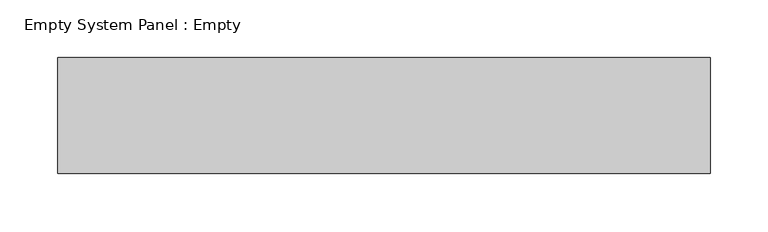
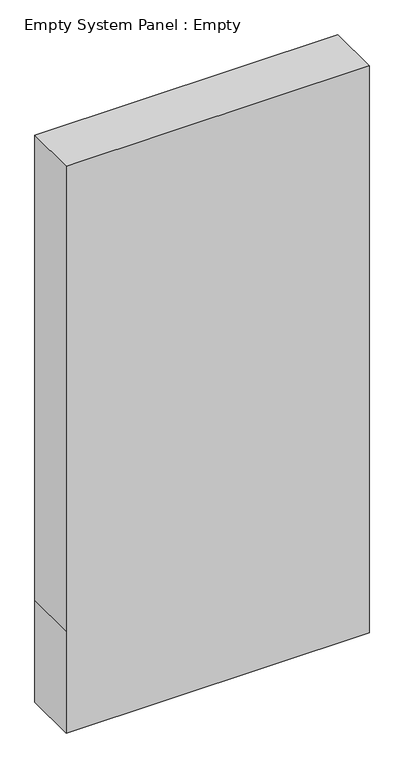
"""IFC4 building model written with IfcOpenShell, lengths in millimetres: plate geometry, Empty System Panel : Empty."""

from ifc_helpers import new_model, si_unit, frame, origin, place, context, project, spatial, polyline, outline, extrude, source, transform, mapped, element, save


def empty_system_panel_empty_65695ee9(model_context):
    return source(origin(), model_context, "Body", "SweptSolid", [
        extrude(outline(polyline([(0.0, -281.25), (0.0, 281.25), (200.0, 281.25), (1112.5, 281.25), (1112.5, -281.25), (200.0, -281.25), (0.0, -281.25)])), frame((0.0, -50.0, 0.0), z_axis=(0.0, 1.0, 0.0), x_axis=(0.0, 0.0, 1.0)), (0.0, 0.0, 1.0), 100.0),
    ])


if __name__ == "__main__":
    model = new_model("IFC4")
    model_context = context("Model", 3, world=origin())
    ifc_project = project(units=[si_unit("LENGTHUNIT", "METRE", prefix="MILLI")], contexts=[model_context])
    site = spatial("IfcSite", under=ifc_project)
    building = spatial("IfcBuilding", under=site)
    placement = place(None, origin())
    empty_system_panel_empty_shape = empty_system_panel_empty_65695ee9(model_context)
    element("IfcPlate", 1, ObjectType="Empty System Panel : Empty", at=placement, inside=building, context=model_context, shape_type="MappedRepresentation", body=[
        mapped(empty_system_panel_empty_shape, transform((0.0, 0.0, 0.0), x_axis=(1.0, 0.0, 0.0), y_axis=(0.0, 1.0, 0.0), z_axis=(0.0, 0.0, 1.0))),
    ])
    save(model, "model.ifc")
